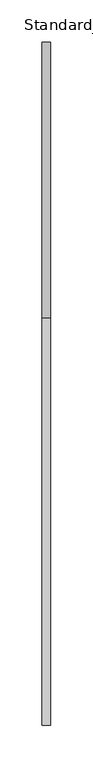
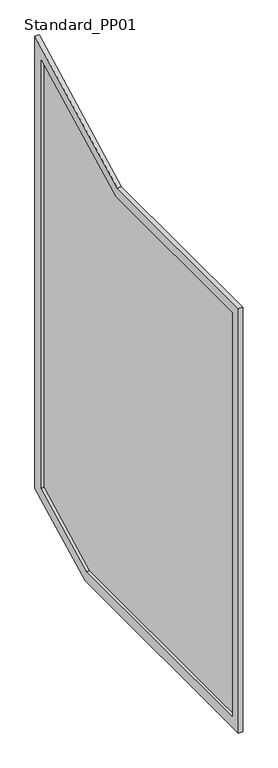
"""IFC4 building model written with IfcOpenShell, lengths in millimetres: railing geometry, Baluster-Landing-Panel-VIVA-STRUC-Upper : Standard_PP01."""

from ifc_helpers import new_model, si_unit, frame, origin, place, context, project, spatial, polyline, outline, extrude, source, transform, mapped, element, save


def standard_pp01_723a6c8f(model_context):
    return source(origin(), model_context, "Body", "SweptSolid", [
        extrude(outline(polyline([(206.7060559, -60.9774278), (206.7060559, 911.0218), (666.564764, 911.0218), (959.3372584, 1063.4295139), (959.3372584, 32.1756015), (780.391954, -60.9774278), (206.7060559, -60.9774278)])), frame((62.2681, 0.0, 0.0), z_axis=(1.0, 0.0, 0.0), x_axis=(0.0, 1.0, 0.0)), (0.0, 0.0, 1.0), 2.9972),
        extrude(outline(polyline([(984.7372584, 16.7625032), (786.6072944, -86.3774278), (181.3060559, -86.3774278), (181.3060559, 936.4218), (660.3494236, 936.4218), (984.7372584, 1105.2874184), (984.7372584, 16.7625032)]), holes=[polyline([(206.7060559, 911.0218), (206.7060559, -60.9774278), (780.391954, -60.9774278), (959.3372584, 32.1756015), (959.3372584, 1063.4295139), (666.564764, 911.0218), (206.7060559, 911.0218)])]), frame((55.7403, 0.0, 0.0), z_axis=(1.0, 0.0, 0.0), x_axis=(0.0, 1.0, 0.0)), (0.0, 0.0, 1.0), 9.525),
    ])


if __name__ == "__main__":
    model = new_model("IFC4")
    model_context = context("Model", 3, world=origin())
    ifc_project = project(units=[si_unit("LENGTHUNIT", "METRE", prefix="MILLI")], contexts=[model_context])
    site = spatial("IfcSite", under=ifc_project)
    building = spatial("IfcBuilding", under=site)
    placement = place(None, origin())
    standard_pp01_shape = standard_pp01_723a6c8f(model_context)
    element("IfcRailing", 1, ObjectType="Baluster-Landing-Panel-VIVA-STRUC-Upper : Standard_PP01", at=placement, inside=building, context=model_context, shape_type="MappedRepresentation", body=[
        mapped(standard_pp01_shape, transform((0.0, 0.0, 0.0), x_axis=(1.0, 0.0, 0.0), y_axis=(0.0, 1.0, 0.0), z_axis=(0.0, 0.0, 1.0))),
    ])
    save(model, "model.ifc")
